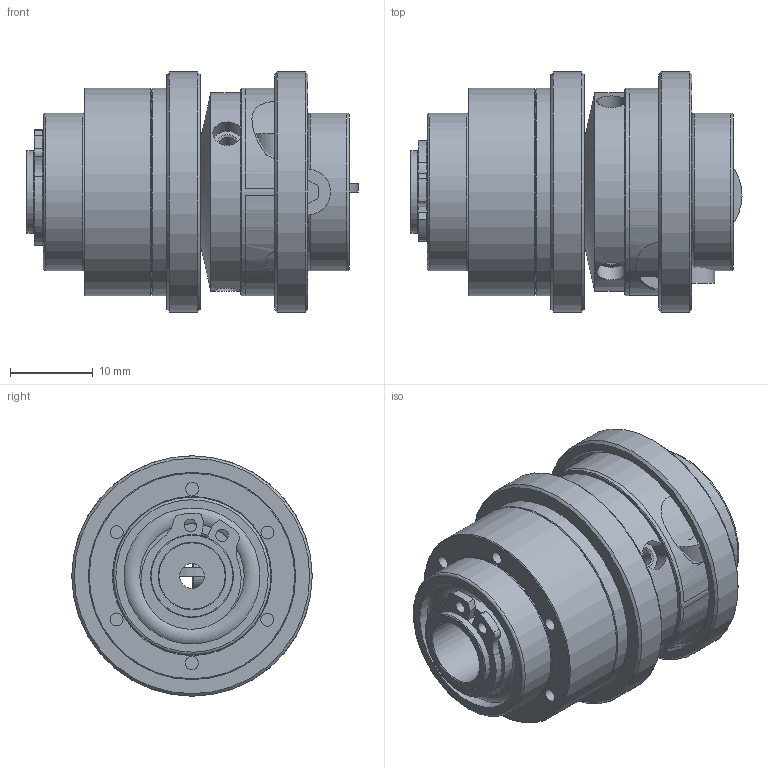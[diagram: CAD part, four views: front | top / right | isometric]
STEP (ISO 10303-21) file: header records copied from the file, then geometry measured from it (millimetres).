
FILE_DESCRIPTION( ( 'Unknown' ), '1' );
FILE_NAME( 'C:/Dokumente und Einstellungen/Sven/Desktop/hp kbk/KBK LL-K-2.stp', 'Unknown', ( 'Unknown' ), ( 'Unknown' ), 'XStep 1.0', 'Unknown', ' ' );
FILE_SCHEMA( ( 'automotive_design' ) );
Length unit declared in the file: millimetre
Products named in the file (13): Assem1; Assem2; Assem3; Zylinderschraube DIN 912_0; ball_bearing_-_61800_0_01; ball_bearing_-_61800_0_02; ball_bearing_-_61800_0_03; Klemmnabe 2; a_10; Druckring 2; Stellring 2; Grundkörper LL-K-2; Flansch 2
Bounding box: 40.05 x 29 x 29 mm (x, y, z)
Volume: 24267.7 mm3; surface area: 26216.6 mm2
Topology: 28 solids, 28 shells, 357 faces, 752 edges, 485 vertices
Faces by surface type: cylinder 134, plane 130, cone 61, torus 32
Full cylindrical faces by diameter (mm): 1.5 x6, 1.567 x12, 2.013 x6, 2.459 x2, 3 x5, 3.2 x2, 3.5 x6, 5.5 x3, 8 x2, 9.6 x4, 10 x10, 12 x4, 12.6 x8, 13 x4, 16.4 x8, 17 x2, 19 x6, 24 x2, 25 x4, 26 x2, 29 x2
Entity records: 4222 total; most frequent: CARTESIAN_POINT 948, DIRECTION 652, ORIENTED_EDGE 424, AXIS2_PLACEMENT_3D 299, EDGE_LOOP 267, EDGE_CURVE 212, FACE_OUTER_BOUND 196, VERTEX_POINT 179
